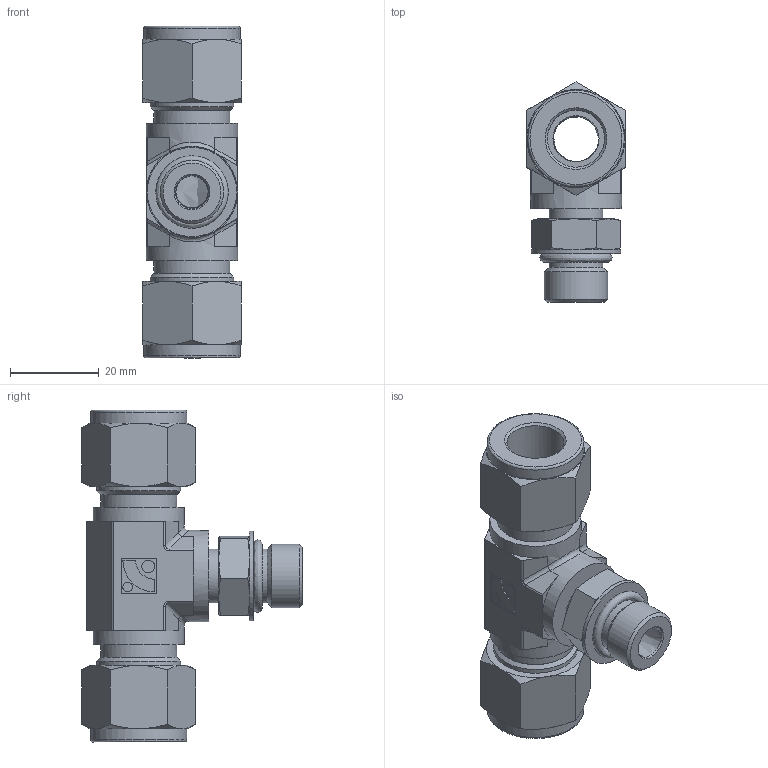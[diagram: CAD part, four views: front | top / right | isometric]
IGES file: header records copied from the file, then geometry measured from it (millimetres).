
Global section: file name: SPMBT-8-6U; native system: Autodesk Inventor 2016; preprocessor: unknown; author: DESIGNPC2; date: 20160312.154549; units: millimetre
Bounding box: 22.23 x 49.73 x 75.03 mm (x, y, z)
Volume: 24537.7 mm3; surface area: 13091.2 mm2
Topology: 4 solids, 4 shells, 167 faces, 401 edges, 255 vertices
Faces by surface type: bspline 167
